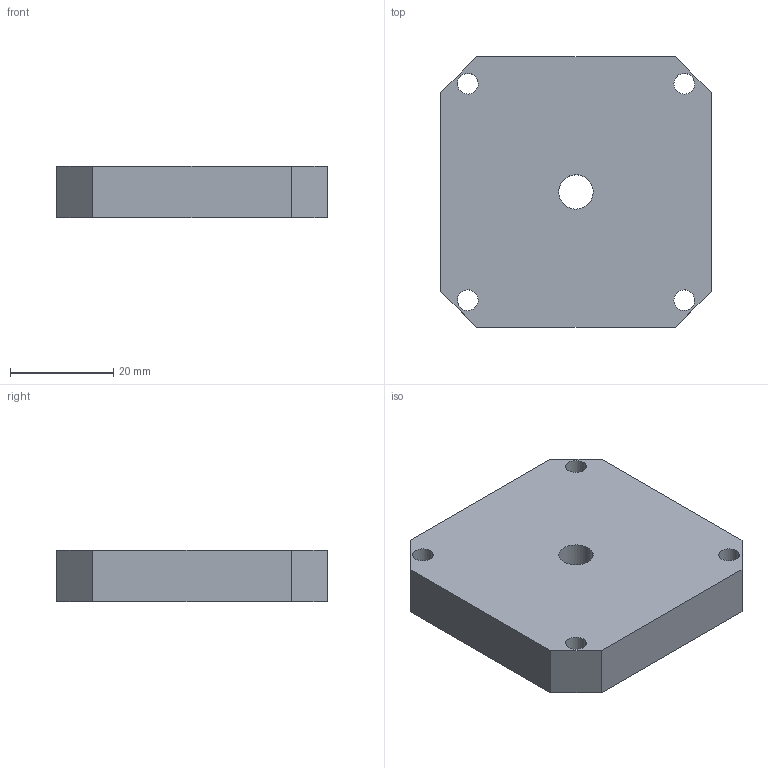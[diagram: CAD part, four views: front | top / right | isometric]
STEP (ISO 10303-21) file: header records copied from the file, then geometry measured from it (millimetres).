
FILE_DESCRIPTION(('CATIA V5 STEP Exchange'),'2;1');
FILE_NAME('C:\Users\Administrateur\Documents\Monture\Monture_voyage\Commande\Couvercle_contre_poids.stp','2023-03-13T07:12:34+00:00',('none'),('none'),'CATIA Version 5 Release 18 GA (IN-10)','CATIA V5 STEP AP203','none');
FILE_SCHEMA(('CONFIG_CONTROL_DESIGN'));
Length unit declared in the file: millimetre
Products named in the file (1): Couvercle_contre_poids
Bounding box: 52.3 x 52.31 x 10 mm (x, y, z)
Volume: 25546.8 mm3; surface area: 7750.6 mm2
Topology: 1 solids, 1 shells, 20 faces, 54 edges, 36 vertices
Faces by surface type: cylinder 10, plane 10
Entity records: 655 total; most frequent: ORIENTED_EDGE 108, CARTESIAN_POINT 106, DIRECTION 84, EDGE_CURVE 54, AXIS2_PLACEMENT_3D 36, VERTEX_POINT 36, VECTOR 34, LINE 34
